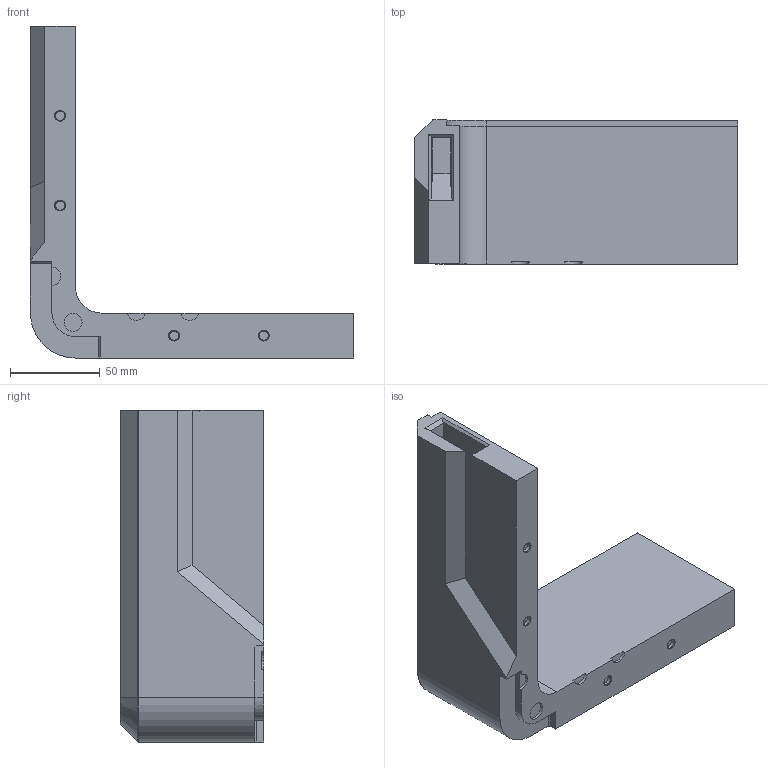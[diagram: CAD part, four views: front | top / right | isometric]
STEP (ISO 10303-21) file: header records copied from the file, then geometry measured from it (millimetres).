
FILE_DESCRIPTION (( 'STEP AP203' ), '1' );
FILE_NAME ('Ôö¸ß¼Ü-C.STEP', '2024-01-02T07:26:05', ( '' ), ( '' ), 'SwSTEP 2.0', 'SolidWorks 2014', '' );
FILE_SCHEMA (( 'CONFIG_CONTROL_DESIGN' ));
Length unit declared in the file: millimetre
Products named in the file (1): 崝詢殤-C
Bounding box: 180 x 80 x 184.95 mm (x, y, z)
Volume: 595652.9 mm3; surface area: 73438.2 mm2
Topology: 1 solids, 1 shells, 88 faces, 232 edges, 152 vertices
Faces by surface type: plane 55, cylinder 22, cone 9, torus 2
Entity records: 2792 total; most frequent: DIRECTION 473, CARTESIAN_POINT 473, ORIENTED_EDGE 464, EDGE_CURVE 232, VECTOR 169, LINE 169, VERTEX_POINT 152, AXIS2_PLACEMENT_3D 152
